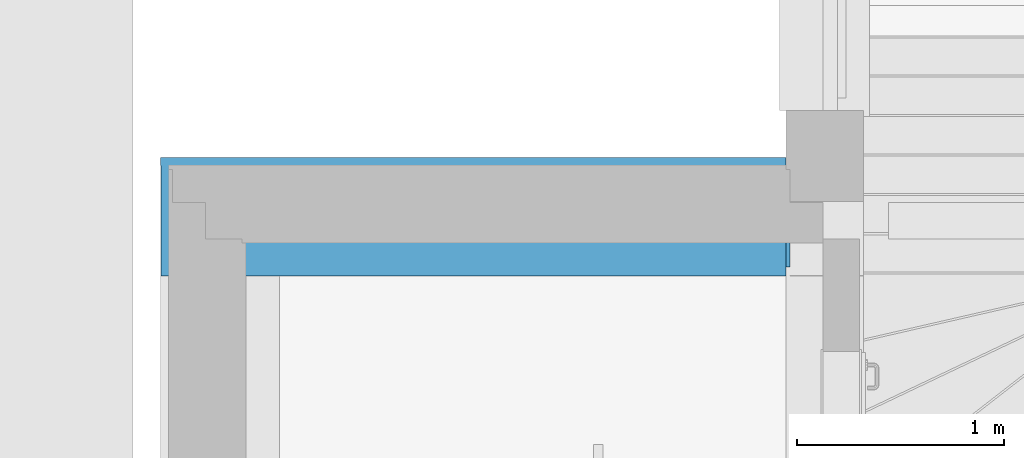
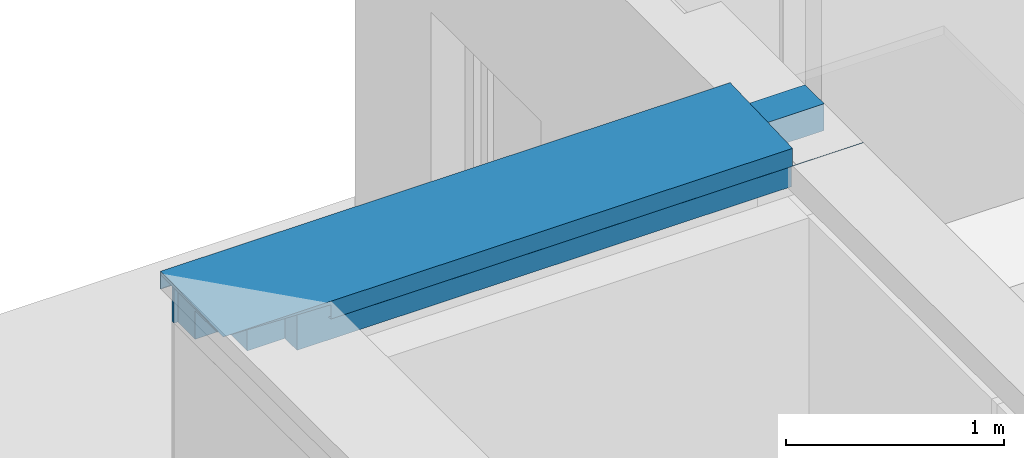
# One storey, part 4 of 28: 1 beam.
"""IFC4 building model written with IfcOpenShell, lengths in metres."""

from ifc_helpers import new_model, entity, si_unit, converted_unit, derived_unit, direction, frame, origin_with_axes, place, context, subcontext, project, spatial, triangles, material, constituent, constituent_set, type_object, element, save


model = new_model("IFC4")

# Units and contexts
model_context = context("Model", 3, precision=1e-05, world=origin_with_axes(), true_north=direction((-0.526213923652, 0.850352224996)))
body_context = subcontext(model_context, "Body", "Model", "MODEL_VIEW")
ifc_project = project(units=[si_unit("LENGTHUNIT", "METRE"), si_unit("AREAUNIT", "SQUARE_METRE"), si_unit("VOLUMEUNIT", "CUBIC_METRE"), converted_unit("PLANEANGLEUNIT", "DEGREE", entity("IfcPlaneAngleMeasure", 0.0174532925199), si_unit("PLANEANGLEUNIT", "RADIAN"), dimensions=[0, 0, 0, 0, 0, 0, 0]), si_unit("SOLIDANGLEUNIT", "STERADIAN"), converted_unit("TIMEUNIT", "Year", entity("IfcTimeMeasure", 31556926.0), si_unit("TIMEUNIT", "SECOND"), dimensions=[0, 0, 1, 0, 0, 0, 0]), si_unit("MASSUNIT", "GRAM", prefix="KILO"), si_unit("THERMODYNAMICTEMPERATUREUNIT", "DEGREE_CELSIUS"), si_unit("LUMINOUSINTENSITYUNIT", "LUMEN"), si_unit("ENERGYUNIT", "JOULE", prefix="MEGA"), derived_unit("THERMALCONDUCTANCEUNIT", [(si_unit("POWERUNIT", "WATT"), 1), (si_unit("LENGTHUNIT", "METRE"), -1), (si_unit("THERMODYNAMICTEMPERATUREUNIT", "KELVIN"), -1)]), derived_unit("SPECIFICHEATCAPACITYUNIT", [(si_unit("ENERGYUNIT", "JOULE"), 1), (si_unit("MASSUNIT", "GRAM", prefix="KILO"), -1), (si_unit("THERMODYNAMICTEMPERATUREUNIT", "KELVIN"), -1)]), derived_unit("MASSDENSITYUNIT", [(si_unit("MASSUNIT", "GRAM", prefix="KILO"), 1), (si_unit("VOLUMEUNIT", "CUBIC_METRE"), -1)])], contexts=[model_context])

# Site, building, storey, space
site_placement = place(None, origin_with_axes())
site = spatial("IfcSite", under=ifc_project, at=site_placement, Name="Gelände", CompositionType="ELEMENT")
building_placement = place(site_placement, origin_with_axes())
building = spatial("IfcBuilding", under=site, at=building_placement, Name="Haus vom Nikolaus", CompositionType="ELEMENT")
storey_placement = place(building_placement, origin_with_axes())
storey = spatial("IfcBuildingStorey", under=building, at=storey_placement, Name="EG", CompositionType="ELEMENT", Elevation=0.0)
space_placement = place(storey_placement, frame((-3.09538684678, 5.36483190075, 0.0), z_axis=(0.0, 0.0, 1.0), x_axis=(1.0, 0.0, 0.0)))
space = spatial("IfcSpace", under=storey, at=space_placement, Name="EG", CompositionType="ELEMENT")

# Beam
ifc_material_1 = material(Name="Metall, Stahl verzinkt")
ifc_constituent_1 = constituent(ifc_material_1, Name="Component 1")
ifc_material_2 = material(Name="Holz, Spanplatte")
ifc_constituent_2 = constituent(ifc_material_2, Name="Component 2")
ifc_material_3 = material(Name="Dämmung, hart XPS")
ifc_constituent_3 = constituent(ifc_material_3, Name="Component 3")
ifc_material_4 = material(Name="Holz, Bauholz")
ifc_constituent_4 = constituent(ifc_material_4, Name="Component 4")
ifc_material_5 = material(Name="MW Kalksandstein")
ifc_constituent_5 = constituent(ifc_material_5, Name="Component 5")
ifc_material_6 = material(Name="Holz, Brettschichtholz")
ifc_constituent_6 = constituent(ifc_material_6, Name="Component 6")
ifc_constituent_7 = constituent(ifc_material_4, Name="Component 7")
ifc_constituent_8 = constituent(ifc_material_3, Name="Component 8")
ifc_material_7 = material(Name="Verputz, Kalkzement")
ifc_constituent_9 = constituent(ifc_material_7, Name="Component 9")
ifc_constituent_set = constituent_set(constituents=[ifc_constituent_1, ifc_constituent_2, ifc_constituent_3, ifc_constituent_4, ifc_constituent_5, ifc_constituent_6, ifc_constituent_7, ifc_constituent_8, ifc_constituent_9], Name="Bauteil - Attika Mauerwerk")
beam_type = type_object("IfcBeamType", Name="Bauteil - Attika Mauerwerk 574 x 270", PredefinedType="NOTDEFINED")
beam_placement = place(space_placement, frame((2.98038443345, 3.97000013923, 3.52000000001), z_axis=(0.0, 0.0, 1.0), x_axis=(-1.0, 0.0, 0.0)))
element("IfcBeam", 1, at=beam_placement, inside=space, type_object=beam_type, material=ifc_constituent_set, Name="Attika-Wand-001", ObjectType="Bauteil - Attika Mauerwerk 574 x 270", context=body_context, shape_type="Tessellation", body=[
    triangles([(3.01689048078, -0.216506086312, 0.251263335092), (3.01824428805, -0.214591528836, 0.251263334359), (3.01689048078, -0.21459152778, 0.251263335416), (3.01824428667, -0.216506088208, 0.251263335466), (3.01728700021, -0.216902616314, 0.248952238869), (0.0, -0.216902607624, 0.248952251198), (3.01003200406, -0.207733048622, 0.258121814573), (3.01824428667, -0.21594532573, 0.24990953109), (0.0, -0.207733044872, 0.258121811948), (3.00902775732, -0.208643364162, 0.259126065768), (3.01824428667, -0.216512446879, 0.348504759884), (3.01689683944, -0.216512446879, 0.348504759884), (0.0, -0.216512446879, 0.348504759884), (0.0, -0.216506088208, 0.251263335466), (3.01824428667, -0.217859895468, 0.349908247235), (3.01824428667, -0.217859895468, 0.24990953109), (3.01824428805, -0.179090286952, 0.348504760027), (0.0, -0.217859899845, 0.249909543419), (0.0, -0.217859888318, 0.349908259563), (0.0, 0.35569225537, 0.329145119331), (0.0, -0.215636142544, 0.348471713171), (0.0, 0.346522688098, 0.238724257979), (0.0, 0.353332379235, 0.229999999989), (0.0, 0.345518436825, 0.237813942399), (0.0, 0.35569225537, 0.229999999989), (0.0, 0.354338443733, 0.327839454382), (0.0, 0.354338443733, 0.230908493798), (0.0, -0.208643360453, 0.259126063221), (3.01602053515, -0.21563638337, 0.3484717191), (3.01689683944, -0.179090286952, 0.348504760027), (2.48211545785, 0.355692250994, 0.329145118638), (3.01602053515, -0.178177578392, 0.3484717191), (2.44604594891, 0.355692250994, 0.230908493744), (2.44796050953, 0.355692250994, 0.23090849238), (2.44660670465, 0.355692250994, 0.229554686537), (-0.375, 0.355692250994, 0.229554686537), (-0.375, 0.35569225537, 0.229999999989), (2.44604595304, 0.355692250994, 0.324039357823), (2.44604594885, 0.355692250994, 0.327839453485), (2.44604595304, 0.355692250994, 0.315979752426), (2.44604595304, 0.355692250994, 0.321948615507), (2.44604595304, 0.355692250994, 0.307848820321), (2.44604595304, 0.355692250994, 0.300000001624), (2.44604595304, 0.355692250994, 0.259126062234), (2.44604595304, 0.355692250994, 0.251263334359), (2.44604595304, 0.355692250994, 0.24895224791), (2.44604595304, 0.355692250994, 0.24), (2.44604595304, 0.355692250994, 0.238724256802), (-0.375, 0.353332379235, 0.229999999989), (2.45486595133, 0.345518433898, 0.237813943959), (2.44796050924, 0.352423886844, 0.23090849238), (-0.375, 0.35473497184, 0.228597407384), (2.44564942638, 0.35473497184, 0.228597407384), (2.4538617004, 0.346522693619, 0.238724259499), (2.44796051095, 0.354338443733, 0.230908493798), (2.45486595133, 0.347433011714, 0.237813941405), (2.44604594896, 0.354338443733, 0.230908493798), (2.44604595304, 0.354338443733, 0.238724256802), (2.44604595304, 0.354338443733, 0.251263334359), (2.44604595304, 0.354338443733, 0.24895224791), (2.44604595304, 0.354338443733, 0.24), (2.44604595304, 0.354338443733, 0.259126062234), (2.44604595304, 0.354338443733, 0.300000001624), (2.44604595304, 0.354338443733, 0.307848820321), (2.44604595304, 0.354338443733, 0.315979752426), (2.44604595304, 0.354338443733, 0.321948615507), (2.44604595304, 0.354338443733, 0.324039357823), (2.44604594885, 0.354338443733, 0.327839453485)], [[1, 2, 3], [1, 4, 2], [5, 6, 7], [2, 8, 3], [5, 7, 3], [5, 3, 8], [9, 7, 6], [10, 3, 7], [10, 1, 3], [11, 4, 12], [13, 1, 14], [12, 4, 1], [13, 12, 1], [15, 16, 11], [17, 15, 11], [4, 8, 2], [4, 11, 16], [8, 4, 16], [16, 5, 8], [16, 18, 5], [6, 5, 18], [19, 20, 21], [22, 23, 24], [18, 19, 13], [25, 26, 20], [27, 26, 25], [27, 25, 23], [22, 27, 23], [19, 21, 13], [21, 20, 26], [18, 14, 6], [9, 6, 14], [9, 14, 28], [14, 18, 13], [7, 9, 10], [28, 10, 9], [14, 10, 28], [10, 14, 1], [12, 13, 29], [21, 29, 13], [11, 30, 17], [11, 12, 30], [31, 15, 32], [19, 31, 20], [15, 31, 19], [30, 32, 15], [17, 30, 15], [18, 15, 19], [15, 18, 16], [33, 34, 35], [25, 36, 37], [35, 36, 25], [38, 20, 39], [20, 31, 39], [40, 20, 41], [41, 20, 38], [42, 20, 40], [43, 20, 42], [20, 43, 25], [44, 25, 43], [45, 25, 44], [46, 25, 45], [47, 25, 46], [48, 25, 47], [33, 25, 48], [25, 33, 35], [37, 23, 25], [37, 49, 23], [50, 24, 51], [52, 53, 23], [53, 24, 23], [52, 23, 49], [24, 53, 51], [24, 54, 22], [54, 24, 50], [55, 54, 56], [22, 57, 27], [54, 55, 57], [54, 57, 22], [57, 58, 27], [59, 27, 60], [60, 27, 61], [62, 27, 59], [27, 62, 26], [26, 62, 63], [26, 63, 64], [26, 64, 65], [26, 65, 66], [26, 66, 67], [26, 67, 68], [61, 27, 58], [29, 21, 68], [26, 68, 21], [30, 29, 32], [30, 12, 29], [39, 31, 68], [68, 32, 29], [32, 68, 31], [55, 35, 34], [35, 55, 53], [51, 53, 55], [53, 36, 35], [53, 52, 36], [49, 36, 52], [36, 49, 37], [68, 38, 39], [68, 67, 38], [38, 66, 41], [38, 67, 66], [41, 65, 40], [41, 66, 65], [40, 64, 42], [40, 65, 64], [64, 43, 42], [64, 63, 43], [63, 44, 43], [63, 62, 44], [62, 45, 44], [62, 59, 45], [59, 46, 45], [59, 60, 46], [60, 47, 46], [60, 61, 47], [61, 48, 47], [61, 58, 48], [57, 48, 58], [48, 57, 33], [57, 34, 33], [34, 57, 55], [55, 56, 51], [50, 51, 56], [54, 50, 56]], closed=True),
    triangles([(2.91038039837, -0.10999611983, 0.324039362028), (3.01674402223, 0.354335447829, 0.327753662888), (3.0167438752, -0.216359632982, 0.327753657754), (2.91038039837, 0.354205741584, 0.324039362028), (0.0, 0.354338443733, 0.327839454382), (3.01674102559, 0.354338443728, 0.327839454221), (2.85050936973, 0.354132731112, 0.321948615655), (2.67958333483, 0.353924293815, 0.315979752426), (2.44674404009, 0.353640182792, 0.307848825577), (0.0, 0.353640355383, 0.30784881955), (3.01674102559, -0.216356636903, 0.327839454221), (0.0, -0.216359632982, 0.327753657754), (0.0, -0.109995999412, 0.324039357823), (2.85050936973, -0.0501249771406, 0.321948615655), (2.67958333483, 0.120800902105, 0.315979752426), (0.0, -0.0501249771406, 0.321948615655), (0.0, -0.215636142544, 0.348471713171), (3.01602053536, -0.215636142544, 0.348471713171)], [[1, 2, 3], [2, 1, 4], [5, 6, 4], [5, 7, 8], [5, 4, 7], [5, 8, 9], [5, 9, 10], [4, 6, 2], [6, 11, 2], [3, 2, 11], [3, 12, 1], [13, 1, 12], [14, 4, 1], [14, 7, 4], [15, 7, 14], [7, 15, 8], [15, 9, 8], [14, 16, 15], [9, 16, 10], [9, 15, 16], [17, 16, 13], [16, 5, 10], [17, 13, 12], [16, 17, 5], [5, 18, 6], [5, 17, 18], [18, 11, 6], [12, 3, 11], [12, 18, 17], [18, 12, 11], [1, 13, 14], [16, 14, 13]], closed=True),
    triangles([(0.0, 0.2, 0.229999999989), (2.60038439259, 0.2, 0.259126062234), (0.0, 0.2, 0.300000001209), (2.60038439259, 0.2, 0.300000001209), (-0.02, 0.2, 0.228597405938), (-0.02, 0.2, 0.229999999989), (2.60038439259, 0.2, 0.0800000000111), (-0.02, 0.2, 0.0799999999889), (2.60038439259, 0.2, 0.251263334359), (2.60038439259, 0.2, 0.228597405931), (2.60038439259, 0.2, 0.23090849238), (2.60038439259, 0.2, 0.238724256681), (2.60038439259, 0.2, 0.24), (2.60038439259, 0.2, 0.24895224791), (2.60038439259, 0.31028294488, 0.300000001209), (2.60038439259, 0.31028294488, 0.259126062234), (0.0, 0.31028294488, 0.300000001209), (0.0, 0.31028294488, 0.229999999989), (-0.02, 0.31028294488, 0.229999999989), (-0.02, 0.31028294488, 0.228597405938), (-0.02, 0.31028294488, 0.0799999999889), (2.60038439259, 0.31028294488, 0.0800000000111), (2.60038439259, 0.31028294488, 0.228597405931), (2.60038439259, 0.31028294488, 0.23090849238), (2.60038439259, 0.31028294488, 0.238724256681), (2.60038439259, 0.31028294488, 0.24), (2.60038439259, 0.31028294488, 0.24895224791), (2.60038439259, 0.31028294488, 0.251263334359)], [[1, 2, 3], [3, 2, 4], [5, 1, 6], [7, 1, 8], [8, 1, 5], [9, 2, 1], [10, 1, 7], [11, 1, 10], [12, 1, 11], [13, 1, 12], [14, 1, 13], [9, 1, 14], [2, 15, 4], [2, 16, 15], [17, 4, 15], [17, 3, 4], [3, 18, 1], [3, 17, 18], [1, 19, 6], [1, 18, 19], [19, 5, 6], [19, 20, 5], [21, 5, 20], [21, 8, 5], [22, 8, 21], [22, 7, 8], [7, 23, 10], [7, 22, 23], [10, 24, 11], [10, 23, 24], [11, 25, 12], [11, 24, 25], [12, 26, 13], [12, 25, 26], [13, 27, 14], [13, 26, 27], [14, 28, 9], [14, 27, 28], [9, 16, 2], [9, 28, 16], [17, 16, 18], [18, 27, 26], [18, 28, 27], [18, 26, 25], [18, 25, 24], [18, 20, 19], [21, 18, 22], [18, 21, 20], [16, 17, 15], [18, 16, 28], [18, 24, 23], [22, 18, 23]], closed=True),
    triangles([(0.0, 0.12, 0.300000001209), (2.68038439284, 0.12, 0.30784881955), (0.0, 0.12, 0.315979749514), (2.68038439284, 0.12, 0.315979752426), (2.68038439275, 0.12, 0.300000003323), (2.68038439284, 0.180110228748, 0.313880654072), (2.68038439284, 0.180062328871, 0.30784881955), (0.0, 0.180110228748, 0.313880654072), (0.0, 0.18, 0.300000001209), (2.68038439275, 0.18, 0.300000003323)], [[1, 2, 3], [3, 2, 4], [5, 2, 1], [2, 6, 4], [2, 7, 6], [3, 6, 8], [6, 3, 4], [8, 1, 3], [1, 8, 9], [1, 10, 5], [1, 9, 10], [10, 2, 5], [2, 10, 7], [9, 7, 10], [8, 7, 9], [7, 8, 6]], closed=True),
    triangles([(0.0, 0.0, 0.229999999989), (2.80038439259, 0.0, 0.238724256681), (0.0, 0.0, 0.24), (2.80038439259, 0.0, 0.24), (-0.02, 0.0, 0.228597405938), (-0.02, 0.0, 0.229999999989), (2.80038439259, 0.0, 0.0799999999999), (-0.02, 0.0, 0.0799999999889), (2.80038439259, 0.0, 0.23090849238), (2.80038439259, 0.0, 0.228597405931), (2.80038439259, 0.2, 0.24), (2.80038439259, 0.2, 0.238724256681), (0.0, 0.2, 0.24), (0.0, 0.2, 0.229999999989), (-0.02, 0.2, 0.229999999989), (-0.02, 0.2, 0.228597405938), (-0.02, 0.2, 0.0799999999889), (2.80038439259, 0.2, 0.0799999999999), (2.80038439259, 0.2, 0.228597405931), (2.80038439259, 0.2, 0.23090849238)], [[1, 2, 3], [3, 2, 4], [5, 1, 6], [7, 1, 8], [8, 1, 5], [9, 2, 1], [10, 1, 7], [9, 1, 10], [2, 11, 4], [2, 12, 11], [13, 4, 11], [13, 3, 4], [3, 14, 1], [3, 13, 14], [1, 15, 6], [1, 14, 15], [15, 5, 6], [15, 16, 5], [17, 5, 16], [17, 8, 5], [18, 8, 17], [18, 7, 8], [7, 19, 10], [7, 18, 19], [10, 20, 9], [10, 19, 20], [9, 12, 2], [9, 20, 12], [13, 12, 14], [14, 16, 15], [17, 14, 18], [14, 17, 16], [12, 13, 11], [14, 12, 20], [14, 20, 19], [18, 14, 19]], closed=True),
    triangles([(2.96040787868, -0.160023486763, 0.251263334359), (2.96042425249, 0.2, 0.259126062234), (2.96042425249, -0.160039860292, 0.259126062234), (2.96040787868, 0.2, 0.251263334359), (2.9605093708, 0.18, 0.300000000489), (2.9605093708, 0.2, 0.300000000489), (2.9605093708, 0.12, 0.300000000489), (2.9605093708, -0.0501249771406, 0.300000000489), (2.9605093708, -0.110124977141, 0.300000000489), (2.9605093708, -0.160124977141, 0.300000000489), (0.0, -0.160000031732, 0.24), (0.0, -0.160124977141, 0.300000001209), (2.96040306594, -0.160018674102, 0.24895224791), (2.96038442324, -0.160000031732, 0.239999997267), (2.96040306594, 0.2, 0.24895224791), (0.0, 0.2, 0.24), (0.0, 0.2, 0.300000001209), (2.96038442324, 0.2, 0.239999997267), (0.0, 0.18, 0.300000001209), (0.0, 0.12, 0.300000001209), (0.0, -0.0501249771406, 0.300000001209), (0.0, -0.110124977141, 0.300000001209)], [[1, 2, 3], [1, 4, 2], [5, 2, 6], [7, 2, 5], [8, 2, 7], [9, 3, 8], [2, 8, 3], [3, 9, 10], [11, 3, 12], [12, 3, 10], [1, 11, 13], [14, 13, 11], [11, 1, 3], [13, 4, 1], [13, 15, 4], [16, 2, 4], [17, 2, 16], [16, 4, 15], [16, 15, 18], [2, 17, 6], [17, 5, 6], [17, 19, 5], [19, 7, 5], [19, 20, 7], [20, 8, 7], [20, 21, 8], [21, 9, 8], [21, 22, 9], [22, 10, 9], [22, 12, 10], [17, 16, 19], [22, 11, 12], [11, 21, 16], [21, 11, 22], [20, 16, 21], [19, 16, 20], [11, 18, 14], [11, 16, 18], [14, 15, 13], [14, 18, 15]], closed=True),
    triangles([(0.0, -0.110124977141, 0.300000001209), (2.91039161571, -0.110007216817, 0.321948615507), (0.0, -0.109995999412, 0.324039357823), (2.91038039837, -0.109995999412, 0.324039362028), (2.91042364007, -0.110039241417, 0.315979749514), (2.9104672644, -0.110082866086, 0.30784881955), (2.91050937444, -0.110124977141, 0.300000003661), (2.91039161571, -0.0501249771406, 0.321948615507), (0.0, -0.0501249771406, 0.321948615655), (0.0, -0.0501249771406, 0.300000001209), (2.91050937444, -0.0501249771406, 0.300000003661), (2.9104672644, -0.0501249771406, 0.30784881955), (2.91042364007, -0.0501249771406, 0.315979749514)], [[1, 2, 3], [3, 2, 4], [5, 2, 1], [6, 1, 7], [5, 1, 6], [2, 8, 4], [9, 4, 8], [9, 3, 4], [1, 9, 10], [1, 3, 9], [1, 11, 7], [1, 10, 11], [11, 6, 7], [6, 11, 12], [12, 5, 6], [5, 12, 13], [13, 2, 5], [2, 13, 8], [13, 9, 8], [10, 13, 12], [9, 13, 10], [10, 12, 11]], closed=True),
    triangles([(0.0, -0.160000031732, 0.229999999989), (2.96038442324, -0.160000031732, 0.238724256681), (0.0, -0.160000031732, 0.24), (2.96038442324, -0.160000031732, 0.239999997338), (-0.375, -0.160000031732, 0.0799999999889), (-0.375, -0.160000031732, 0.229999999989), (2.96038442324, -0.160000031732, 0.08), (2.96038442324, -0.160000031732, 0.23090849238), (2.96038442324, -0.160000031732, 0.228597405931), (2.96038442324, 0.0, 0.239999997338), (2.96038442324, 0.0, 0.238724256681), (0.0, 0.0, 0.24), (0.0, 0.0, 0.229999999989), (-0.18, -0.00398860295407, 0.229999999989), (-0.02, -0.00398860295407, 0.229999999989), (-0.375, -0.00398860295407, 0.229999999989), (-0.355, -0.00398860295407, 0.229999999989), (-0.02, 0.0, 0.229999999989), (-0.375, -0.00398860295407, 0.228597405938), (-0.375, -0.00398860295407, 0.0799999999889), (-0.18, -0.00398860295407, 0.0799999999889), (-0.02, -0.00398860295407, 0.0799999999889), (2.96038442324, 0.0, 0.08), (-0.02, 0.0, 0.0799999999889), (-0.355, -0.00398860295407, 0.0799999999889), (2.96038442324, 0.0, 0.228597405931), (2.96038442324, 0.0, 0.23090849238), (-0.02, 0.0, 0.228597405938), (-0.02, -0.00398860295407, 0.228597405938), (-0.18, -0.00398860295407, 0.228597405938), (-0.355, -0.00398860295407, 0.228597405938)], [[1, 2, 3], [3, 2, 4], [5, 1, 6], [7, 1, 5], [8, 2, 1], [9, 1, 7], [8, 1, 9], [2, 10, 4], [2, 11, 10], [12, 4, 10], [12, 3, 4], [3, 13, 1], [3, 12, 13], [14, 1, 15], [1, 13, 15], [16, 6, 17], [1, 14, 6], [17, 6, 14], [15, 13, 18], [5, 19, 20], [6, 19, 5], [19, 6, 16], [21, 22, 5], [7, 22, 23], [23, 22, 24], [5, 22, 7], [21, 5, 25], [20, 25, 5], [7, 26, 9], [7, 23, 26], [9, 27, 8], [9, 26, 27], [8, 11, 2], [8, 27, 11], [12, 11, 13], [13, 28, 18], [24, 13, 23], [13, 24, 28], [11, 12, 10], [13, 11, 27], [13, 27, 26], [23, 13, 26], [28, 15, 18], [28, 29, 15], [15, 30, 14], [15, 29, 30], [31, 14, 30], [31, 17, 14], [19, 17, 31], [19, 16, 17], [25, 19, 31], [25, 20, 19], [24, 29, 28], [24, 22, 29], [21, 31, 30], [21, 25, 31], [22, 30, 29], [22, 21, 30]], closed=True),
    triangles([(0.0, -0.180000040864, 0.248952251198), (2.98038442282, -0.180000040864, 0.259126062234), (0.0, -0.180000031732, 0.300000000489), (2.98038442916, -0.180000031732, 0.300000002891), (2.98038442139, -0.180000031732, 0.24895224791), (0.0, -0.180000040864, 0.229999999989), (-0.375, -0.180000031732, 0.0799999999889), (-0.375, -0.180000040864, 0.229999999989), (2.98038443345, -0.180000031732, 0.0799999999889), (2.98038442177, -0.180000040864, 0.251263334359), (2.98038442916, -0.160124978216, 0.300000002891), (2.98038442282, -0.160039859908, 0.259126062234), (0.0, -0.160124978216, 0.300000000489), (0.0, -0.160000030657, 0.229999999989), (0.0, -0.160000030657, 0.239999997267), (-0.375, -0.160000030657, 0.229999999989), (-0.375, -0.160000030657, 0.0799999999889), (2.98038443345, -0.160000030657, 0.0799999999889), (2.98038443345, -0.160000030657, 0.239999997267), (2.98038442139, -0.160018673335, 0.24895224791), (2.98038442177, -0.160023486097, 0.251263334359)], [[1, 2, 3], [3, 2, 4], [5, 1, 6], [7, 6, 8], [9, 6, 7], [10, 2, 1], [5, 6, 9], [10, 1, 5], [2, 11, 4], [2, 12, 11], [13, 4, 11], [13, 3, 4], [14, 6, 15], [13, 1, 3], [15, 6, 1], [13, 15, 1], [8, 14, 16], [8, 6, 14], [16, 7, 8], [16, 17, 7], [17, 9, 7], [17, 18, 9], [5, 19, 20], [19, 5, 9], [19, 9, 18], [5, 21, 10], [5, 20, 21], [10, 12, 2], [10, 21, 12], [13, 12, 15], [15, 21, 20], [15, 12, 21], [15, 20, 19], [12, 13, 11], [15, 19, 14], [17, 16, 14], [18, 14, 19], [18, 17, 14]], closed=True),
])

save(model, "model.ifc")
